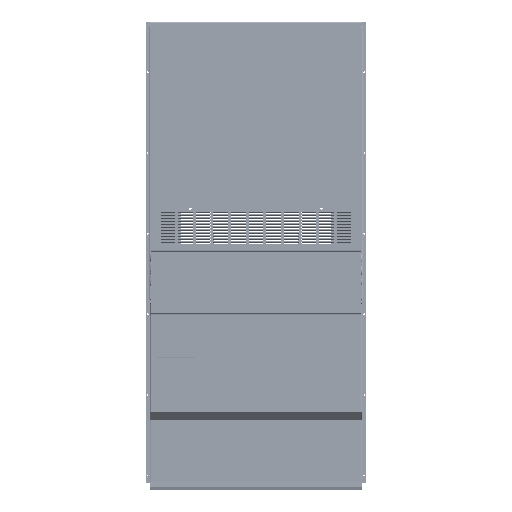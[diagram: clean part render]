
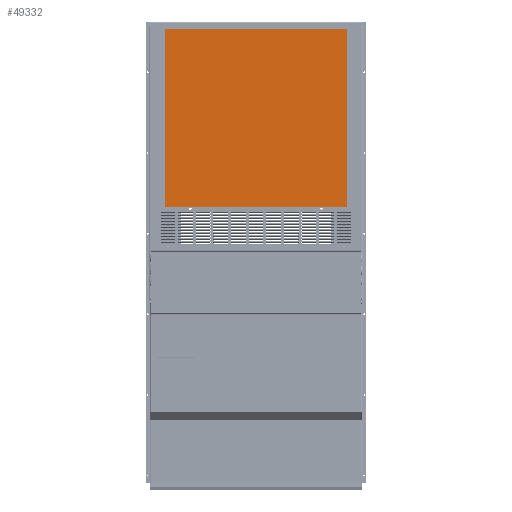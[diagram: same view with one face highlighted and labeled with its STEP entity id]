
A CAD part, left-side view. The second image highlights one B-rep face of the part: STEP entity #49332.
In plain terms, the highlighted planar face has unit normal (-1, 0, 0) as drawn and (0, 0, 1) by its records, which use the part's own axes.
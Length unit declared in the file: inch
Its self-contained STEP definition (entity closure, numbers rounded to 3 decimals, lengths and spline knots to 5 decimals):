
#1148 = EDGE_CURVE ( 'NONE', #4216, #182212, #87425, .T. ) ;
#4216 = VERTEX_POINT ( 'NONE', #165614 ) ;
#8515 = CARTESIAN_POINT ( 'NONE',  ( 18.27786, -12.05233, 0.02 ) ) ;
#18147 = ORIENTED_EDGE ( 'NONE', *, *, #137601, .T. ) ;
#18463 = EDGE_CURVE ( 'NONE', #33393, #130697, #132655, .T. ) ;
#25254 = DIRECTION ( 'NONE',  ( 1., 0., 0. ) ) ;
#26188 = FACE_OUTER_BOUND ( 'NONE', #138738, .T. ) ;
#29337 = LINE ( 'NONE', #79563, #184662 ) ;
#33393 = VERTEX_POINT ( 'NONE', #133114 ) ;
#42287 = ORIENTED_EDGE ( 'NONE', *, *, #18463, .T. ) ;
#43890 = DIRECTION ( 'NONE',  ( -1., 0., 0. ) ) ;
#49332 = ADVANCED_FACE ( 'NONE', ( #26188 ), #112159, .T. ) ;
#53028 = ORIENTED_EDGE ( 'NONE', *, *, #1148, .T. ) ;
#79563 = CARTESIAN_POINT ( 'NONE',  ( 18.27786, 23.39802, 0.02 ) ) ;
#84164 = DIRECTION ( 'NONE',  ( 0., 1., 0. ) ) ;
#87425 = LINE ( 'NONE', #186860, #123932 ) ;
#92033 = DIRECTION ( 'NONE',  ( 0., 0., 1. ) ) ;
#94246 = CARTESIAN_POINT ( 'NONE',  ( 0., 0., 0.02 ) ) ;
#98032 = DIRECTION ( 'NONE',  ( 0., -1., 0. ) ) ;
#110074 = LINE ( 'NONE', #8515, #148896 ) ;
#112159 = PLANE ( 'NONE',  #156891 ) ;
#123932 = VECTOR ( 'NONE', #84164, 39.37008 ) ;
#129202 = ORIENTED_EDGE ( 'NONE', *, *, #151439, .T. ) ;
#130697 = VERTEX_POINT ( 'NONE', #219225 ) ;
#132655 = LINE ( 'NONE', #216420, #197730 ) ;
#133114 = CARTESIAN_POINT ( 'NONE',  ( -17.97214, 23.39802, 0.02 ) ) ;
#137601 = EDGE_CURVE ( 'NONE', #182212, #33393, #29337, .T. ) ;
#138738 = EDGE_LOOP ( 'NONE', ( #53028, #18147, #42287, #129202 ) ) ;
#148896 = VECTOR ( 'NONE', #25254, 39.37008 ) ;
#150110 = CARTESIAN_POINT ( 'NONE',  ( 18.27786, 23.39802, 0.02 ) ) ;
#151439 = EDGE_CURVE ( 'NONE', #130697, #4216, #110074, .T. ) ;
#156891 = AXIS2_PLACEMENT_3D ( 'NONE', #94246, #92033, #195887 ) ;
#165614 = CARTESIAN_POINT ( 'NONE',  ( 18.27786, -12.05233, 0.02 ) ) ;
#182212 = VERTEX_POINT ( 'NONE', #150110 ) ;
#184662 = VECTOR ( 'NONE', #43890, 39.37008 ) ;
#186860 = CARTESIAN_POINT ( 'NONE',  ( 18.27786, -12.05233, 0.02 ) ) ;
#195887 = DIRECTION ( 'NONE',  ( 1., 0., 0. ) ) ;
#197730 = VECTOR ( 'NONE', #98032, 39.37008 ) ;
#216420 = CARTESIAN_POINT ( 'NONE',  ( -17.97214, -12.05233, 0.02 ) ) ;
#219225 = CARTESIAN_POINT ( 'NONE',  ( -17.97214, -12.05233, 0.02 ) ) ;
